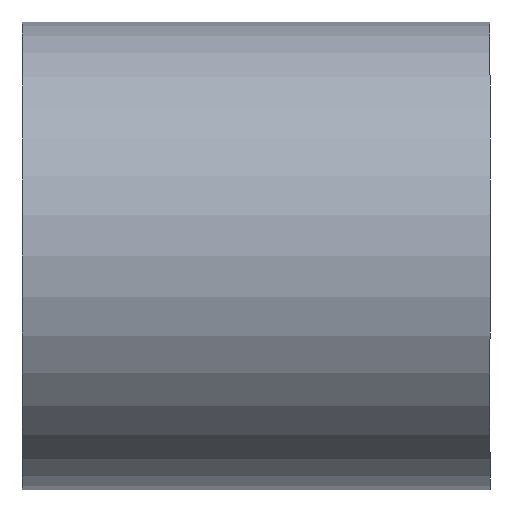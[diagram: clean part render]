
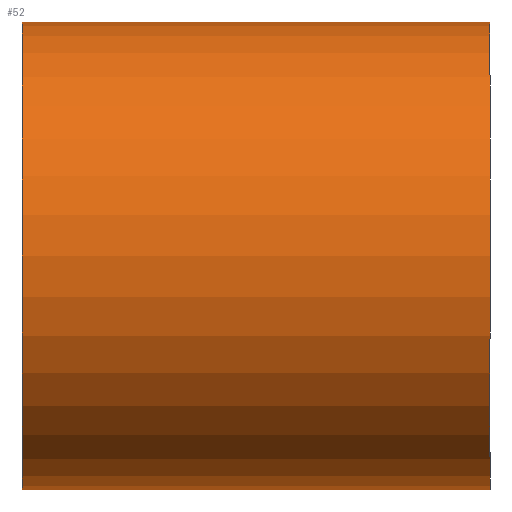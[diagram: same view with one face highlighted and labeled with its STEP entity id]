
A CAD part, left-side view. The second image highlights one B-rep face of the part: STEP entity #52.
In plain terms, the highlighted cylindrical face has radius 12.7 mm (diameter 25.4 mm), a partial arc.
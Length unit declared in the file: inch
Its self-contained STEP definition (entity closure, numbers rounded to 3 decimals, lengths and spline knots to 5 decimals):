
#20 = DIRECTION ( 'NONE',  ( 0., 0., -1. ) ) ;
#41 = ORIENTED_EDGE ( 'NONE', *, *, #369, .T. ) ;
#42 = CARTESIAN_POINT ( 'NONE',  ( 1., 0., 0. ) ) ;
#51 = AXIS2_PLACEMENT_3D ( 'NONE', #42, #252, #161 ) ;
#52 = ADVANCED_FACE ( 'NONE', ( #162 ), #115, .T. ) ;
#60 = VERTEX_POINT ( 'NONE', #189 ) ;
#64 = DIRECTION ( 'NONE',  ( 1., 0., 0. ) ) ;
#65 = CARTESIAN_POINT ( 'NONE',  ( 1., 0., 0.5 ) ) ;
#93 = CIRCLE ( 'NONE', #51, 0.5 ) ;
#105 = CARTESIAN_POINT ( 'NONE',  ( 0., 0., 0. ) ) ;
#108 = CIRCLE ( 'NONE', #243, 0.5 ) ;
#115 = CYLINDRICAL_SURFACE ( 'NONE', #341, 0.5 ) ;
#127 = VERTEX_POINT ( 'NONE', #255 ) ;
#161 = DIRECTION ( 'NONE',  ( 0., 0., -1. ) ) ;
#162 = FACE_OUTER_BOUND ( 'NONE', #210, .T. ) ;
#163 = CARTESIAN_POINT ( 'NONE',  ( 0., 0., 0.5 ) ) ;
#170 = EDGE_CURVE ( 'NONE', #127, #60, #356, .T. ) ;
#187 = ORIENTED_EDGE ( 'NONE', *, *, #170, .F. ) ;
#189 = CARTESIAN_POINT ( 'NONE',  ( 1., 0., -0.5 ) ) ;
#199 = DIRECTION ( 'NONE',  ( 1., 0., 0. ) ) ;
#207 = EDGE_CURVE ( 'NONE', #60, #271, #93, .T. ) ;
#210 = EDGE_LOOP ( 'NONE', ( #41, #224, #238, #187 ) ) ;
#224 = ORIENTED_EDGE ( 'NONE', *, *, #282, .T. ) ;
#238 = ORIENTED_EDGE ( 'NONE', *, *, #207, .F. ) ;
#243 = AXIS2_PLACEMENT_3D ( 'NONE', #105, #349, #20 ) ;
#252 = DIRECTION ( 'NONE',  ( 1., 0., 0. ) ) ;
#255 = CARTESIAN_POINT ( 'NONE',  ( 0., 0., -0.5 ) ) ;
#271 = VERTEX_POINT ( 'NONE', #65 ) ;
#277 = VECTOR ( 'NONE', #319, 39.37008 ) ;
#282 = EDGE_CURVE ( 'NONE', #367, #271, #361, .T. ) ;
#283 = CARTESIAN_POINT ( 'NONE',  ( 1., 0., 0.5 ) ) ;
#319 = DIRECTION ( 'NONE',  ( 1., 0., 0. ) ) ;
#335 = VECTOR ( 'NONE', #199, 39.37008 ) ;
#337 = DIRECTION ( 'NONE',  ( 0., 0., -1. ) ) ;
#340 = CARTESIAN_POINT ( 'NONE',  ( 1., 0., 0. ) ) ;
#341 = AXIS2_PLACEMENT_3D ( 'NONE', #340, #64, #337 ) ;
#345 = CARTESIAN_POINT ( 'NONE',  ( 1., 0., -0.5 ) ) ;
#349 = DIRECTION ( 'NONE',  ( 1., 0., 0. ) ) ;
#356 = LINE ( 'NONE', #345, #277 ) ;
#361 = LINE ( 'NONE', #283, #335 ) ;
#367 = VERTEX_POINT ( 'NONE', #163 ) ;
#369 = EDGE_CURVE ( 'NONE', #127, #367, #108, .T. ) ;
